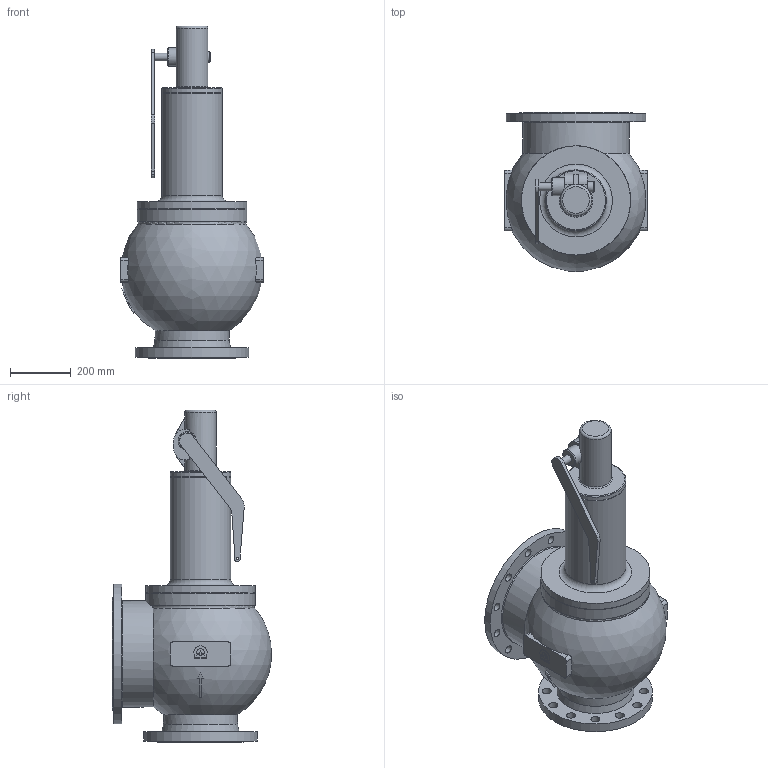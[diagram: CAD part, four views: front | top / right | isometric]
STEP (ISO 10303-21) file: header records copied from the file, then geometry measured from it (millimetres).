
FILE_DESCRIPTION(('STEP AP203'), '1');
FILE_NAME('Êëàïàí ïðåäîõðàíèòåëüíûé ïîëíîïîäüåìíûé SV2F DN200x300', '', ('UNSPECIFIED'), ('UNSPECIFIED'), 'ASCON STEP Converter 1.6', 'ASCON Math Kernel', '');
FILE_SCHEMA(('CONFIG_CONTROL_DESIGN'));
Length unit declared in the file: millimetre
Bounding box: 474 x 523.94 x 1094 mm (x, y, z)
Volume: 82945067.9 mm3; surface area: 2668553.6 mm2
Topology: 1 solids, 1 shells, 158 faces, 452 edges, 307 vertices
Faces by surface type: plane 72, cylinder 71, torus 9, cone 4, sphere 2
Full cylindrical faces by diameter (mm): 8 x1, 26 x13, 30 x12, 35 x1, 60 x1, 104 x1, 155 x1, 180.823 x1, 200 x3, 244 x1, 306 x1, 311.022 x1, 350 x1, 360 x2, 375 x1, 460 x1
Entity records: 7747 total; most frequent: CARTESIAN_POINT 2251, DIRECTION 914, ORIENTED_EDGE 792, EDGE_CURVE 396, AXIS2_PLACEMENT_3D 390, VERTEX_POINT 306, EDGE_LOOP 274, CIRCLE 231
